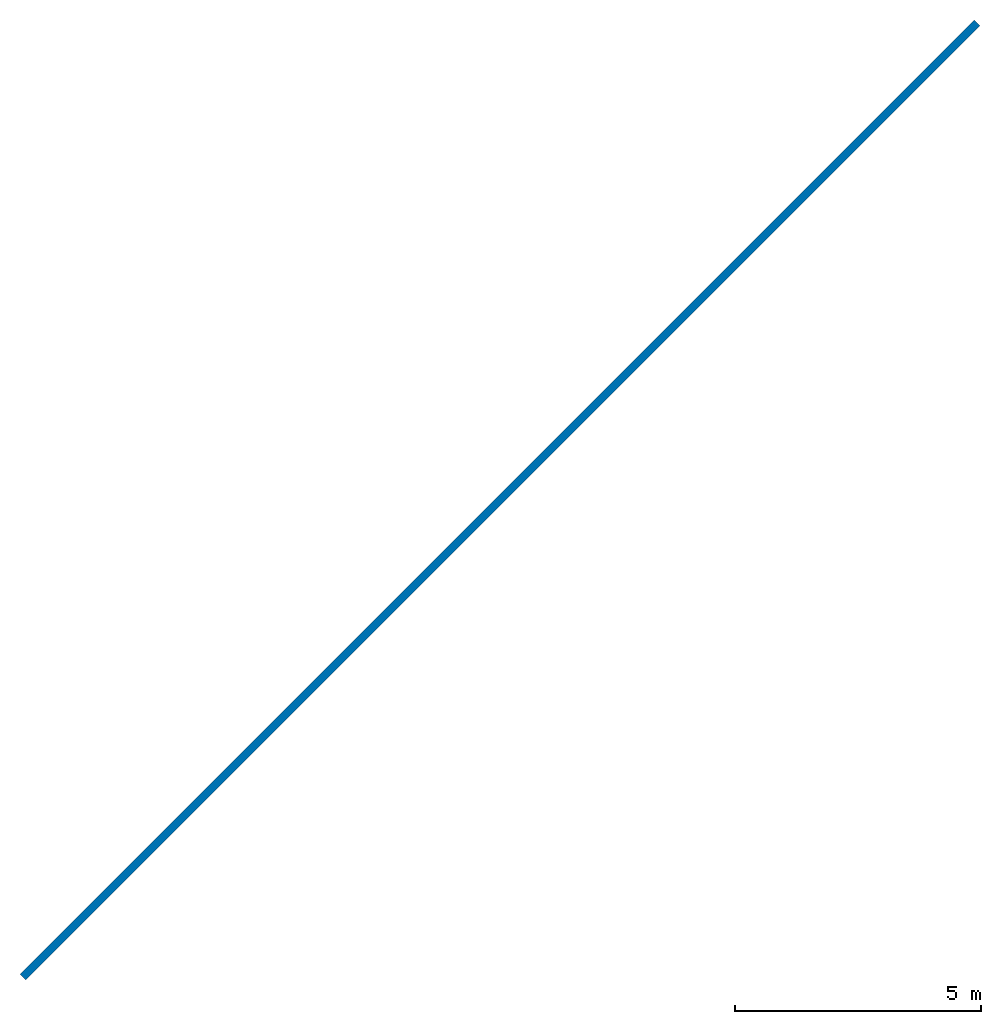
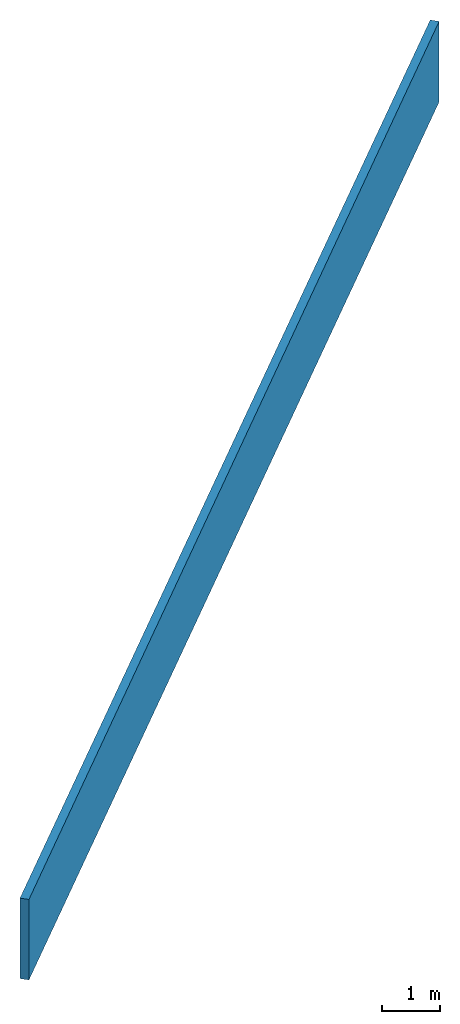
# One storey: 1 wall.
"""IFC4X3_ADD2 building model written with IfcOpenShell, lengths in millimetres."""

from ifc_helpers import new_model, si_unit, direction, frame, frame_2d, origin_with_axes, place, context, subcontext, project, spatial, rectangle, extrude, material, type_object, element, save


model = new_model("IFC4X3_ADD2")

# Units and contexts
model_context = context("Model", 3, precision=1e-05, world=origin_with_axes(), true_north=direction((0.0, 1.0)))
body_context = subcontext(model_context, "Body", "Model", "MODEL_VIEW")
ifc_project = project(units=[si_unit("LENGTHUNIT", "METRE", prefix="MILLI"), si_unit("AREAUNIT", "SQUARE_METRE"), si_unit("VOLUMEUNIT", "CUBIC_METRE"), si_unit("PLANEANGLEUNIT", "RADIAN"), si_unit("TIMEUNIT", "SECOND"), si_unit("MASSUNIT", "GRAM")], contexts=[model_context])

# Site, building, storey
site_placement = place(None, origin_with_axes())
site = spatial("IfcSite", under=ifc_project, at=site_placement, Name="Site", CompositionType="ELEMENT")
building_placement = place(site_placement, origin_with_axes())
building = spatial("IfcBuilding", under=site, at=building_placement, Name="IFC Building Story")
storey_placement = place(building_placement, frame((0.0, 0.0, 21600.0), z_axis=(0.0, 0.0, 1.0), x_axis=(1.0, 0.0, 0.0)))
storey = spatial("IfcBuildingStorey", under=building, at=storey_placement, Name="060", Elevation=21600.0)

# Wall
ifc_material = material(Name="BB_Windscherm")
wall_type = type_object("IfcWallType", Name="BB_Windscherm 160", PredefinedType="NOTDEFINED", material=ifc_material)
wall_placement = place(storey_placement, origin_with_axes())
element("IfcWall", 1, at=wall_placement, inside=storey, type_object=wall_type, Name="Basic Wall:BB_ST_Windscherm, 160mm", ObjectType="Basic Wall:BB_ST_Windscherm, 160mm", PredefinedType="PARAPET", context=body_context, shape_type="SweptSolid", body=[
    extrude(rectangle(XDim=27418.2029880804, YDim=159.9999999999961, at=frame_2d((0.0, 0.0), x_axis=(0.7071067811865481, 0.7071067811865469))), frame((-26259.00280198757, 26262.68236045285, -355.0), z_axis=(0.0, 0.0, 1.0), x_axis=(1.0, 0.0, 0.0)), (0.0, 0.0, 1.0), 1699.99999999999),
])

save(model, "model.ifc")
